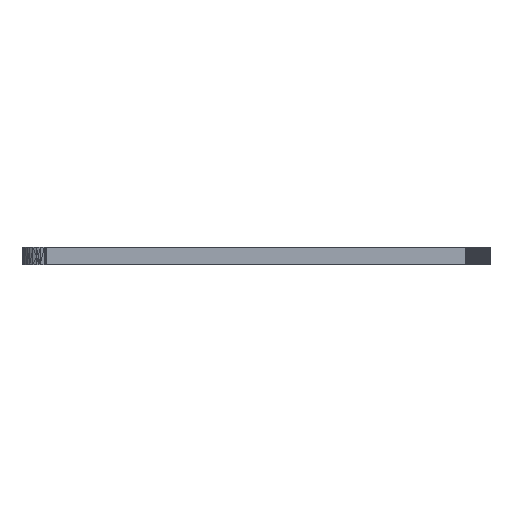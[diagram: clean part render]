
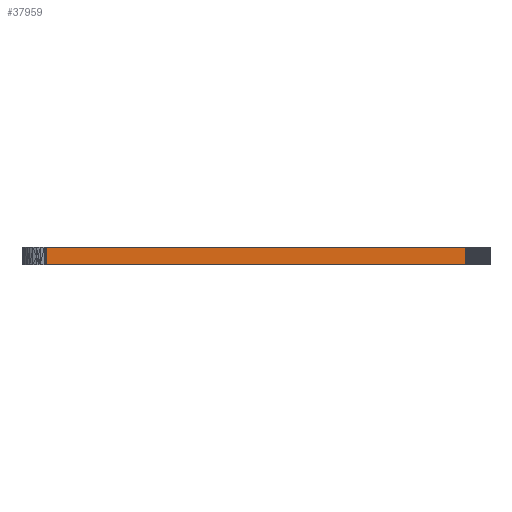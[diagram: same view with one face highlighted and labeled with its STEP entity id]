
A CAD part, front view. The second image highlights one B-rep face of the part: STEP entity #37959.
In plain terms, the highlighted planar face has unit normal (0, -1, 0).
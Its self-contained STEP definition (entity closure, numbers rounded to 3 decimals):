
#73=PLANE('',#41098);
#3186=FACE_OUTER_BOUND('',#6347,.T.);
#6347=EDGE_LOOP('',(#28456,#28457,#28458,#28459));
#9507=LINE('',#55828,#14771);
#10490=LINE('',#57815,#15754);
#10491=LINE('',#57816,#15755);
#10492=LINE('',#57817,#15756);
#14771=VECTOR('',#44263,10.);
#15754=VECTOR('',#45282,10.);
#15755=VECTOR('',#45283,10.);
#15756=VECTOR('',#45284,10.);
#20048=VERTEX_POINT('',#55825);
#20049=VERTEX_POINT('',#55827);
#21034=VERTEX_POINT('',#57813);
#21035=VERTEX_POINT('',#57814);
#22171=EDGE_CURVE('',#20049,#20048,#9507,.T.);
#23164=EDGE_CURVE('',#21034,#21035,#10490,.T.);
#23165=EDGE_CURVE('',#20049,#21034,#10491,.T.);
#23166=EDGE_CURVE('',#20048,#21035,#10492,.T.);
#28456=ORIENTED_EDGE('',*,*,#23164,.F.);
#28457=ORIENTED_EDGE('',*,*,#23165,.F.);
#28458=ORIENTED_EDGE('',*,*,#22171,.T.);
#28459=ORIENTED_EDGE('',*,*,#23166,.T.);
#37959=ADVANCED_FACE('',(#3186),#73,.T.);
#41098=AXIS2_PLACEMENT_3D('',#57812,#45280,#45281);
#44263=DIRECTION('',(1.,0.,0.));
#45280=DIRECTION('center_axis',(0.,-1.,0.));
#45281=DIRECTION('ref_axis',(0.,0.,-1.));
#45282=DIRECTION('',(1.,0.,0.));
#45283=DIRECTION('',(0.,0.,1.));
#45284=DIRECTION('',(0.,0.,1.));
#55825=CARTESIAN_POINT('',(41.25,-46.,-1.75));
#55827=CARTESIAN_POINT('',(-41.25,-46.,-1.75));
#55828=CARTESIAN_POINT('',(-41.25,-46.,-1.75));
#57812=CARTESIAN_POINT('Origin',(41.25,-46.,-1.75));
#57813=CARTESIAN_POINT('',(-41.25,-46.,1.75));
#57814=CARTESIAN_POINT('',(41.25,-46.,1.75));
#57815=CARTESIAN_POINT('',(1.903,-46.,1.75));
#57816=CARTESIAN_POINT('',(-41.25,-46.,-1.75));
#57817=CARTESIAN_POINT('',(41.25,-46.,-1.75));
